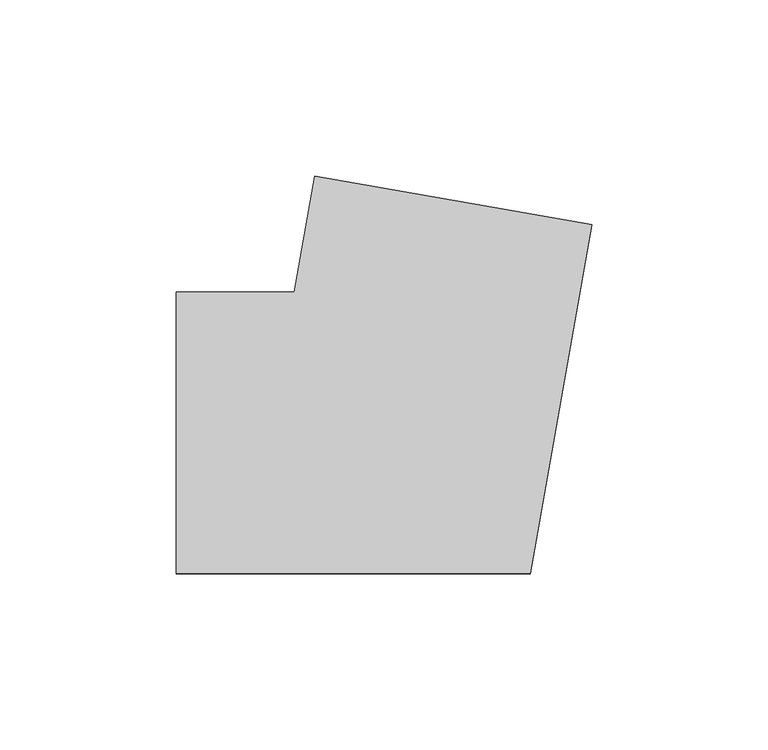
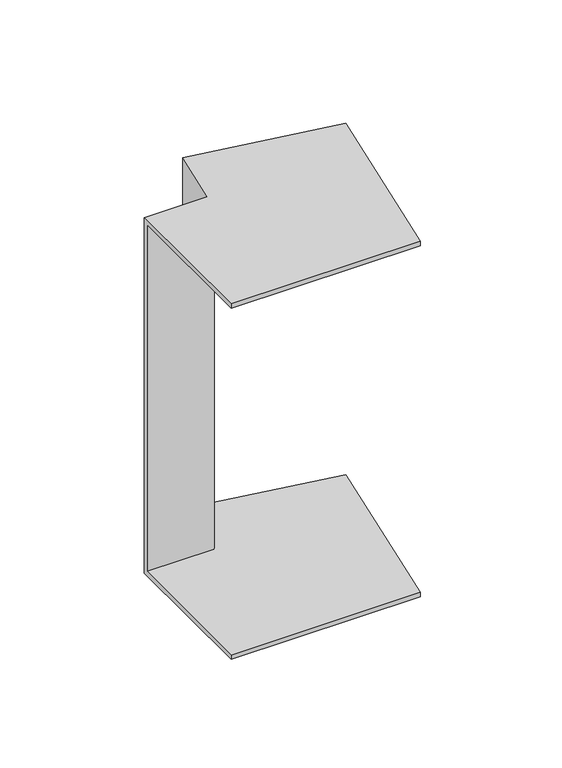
"""IFC4 building model written with IfcOpenShell, lengths in millimetres: cable carrier fitting geometry, КНС_УголВнешний_ILC_DKC : Угол внешний_DKC."""

from ifc_helpers import new_model, si_unit, origin, place, context, project, spatial, faceted_brep, source, transform, mapped, element, save


def cable_carrier_fitting_be7ff779(model_context):
    return source(origin(), model_context, "Body", "Brep", [
        faceted_brep([(-67.1279705, 40.0, 100.0), (-67.1279705, 40.0, -100.0), (-67.1279705, -40.0, -100.0), (-67.1279705, -40.0, -97.5), (-67.1279705, 37.5, -97.5), (-67.1279705, 37.5, 97.5), (-67.1279705, -40.0, 97.5), (-67.1279705, -40.0, 100.0), (-27.7356604, 73.0540729, 100.0), (51.0489599, 59.1622187, 100.0), (51.0489599, 59.1622187, 97.5), (-25.273641, 72.6199524, 97.5), (-25.273641, 72.6199524, -97.5), (51.0489599, 59.1622187, -97.5), (51.0489599, 59.1622187, -100.0), (-27.7356604, 73.0540729, -100.0), (-33.5639852, 40.0, 100.0), (-33.5639852, 40.0, -100.0), (33.5639852, -40.0, -100.0), (33.5639852, -40.0, -97.5), (-31.4662362, 37.5, -97.5), (-31.4662362, 37.5, 97.5), (33.5639852, -40.0, 97.5), (33.5639852, -40.0, 100.0)], [[[0, 1, 2, 3, 4, 5, 6, 7]], [[8, 9, 10, 11, 12, 13, 14, 15]], [[1, 0, 16, 17]], [[2, 1, 17, 15, 14, 18]], [[3, 2, 18, 19]], [[4, 3, 19, 13, 12, 20]], [[5, 4, 20, 21]], [[6, 5, 21, 11, 10, 22]], [[7, 6, 22, 23]], [[0, 7, 23, 9, 8, 16]], [[17, 16, 8, 15]], [[19, 18, 14, 13]], [[21, 20, 12, 11]], [[23, 22, 10, 9]]]),
    ])


if __name__ == "__main__":
    model = new_model("IFC4")
    model_context = context("Model", 3, world=origin())
    ifc_project = project(units=[si_unit("LENGTHUNIT", "METRE", prefix="MILLI")], contexts=[model_context])
    site = spatial("IfcSite", under=ifc_project)
    building = spatial("IfcBuilding", under=site)
    placement = place(None, origin())
    cable_carrier_fitting_shape = cable_carrier_fitting_be7ff779(model_context)
    element("IfcCableCarrierFitting", 1, ObjectType="КНС_УголВнешний_ILC_DKC : Угол внешний_DKC", at=placement, inside=building, context=model_context, shape_type="MappedRepresentation", body=[
        mapped(cable_carrier_fitting_shape, transform((0.0, 0.0, 0.0), x_axis=(1.0, 0.0, 0.0), y_axis=(0.0, 1.0, 0.0), z_axis=(0.0, 0.0, 1.0))),
    ])
    save(model, "model.ifc")
